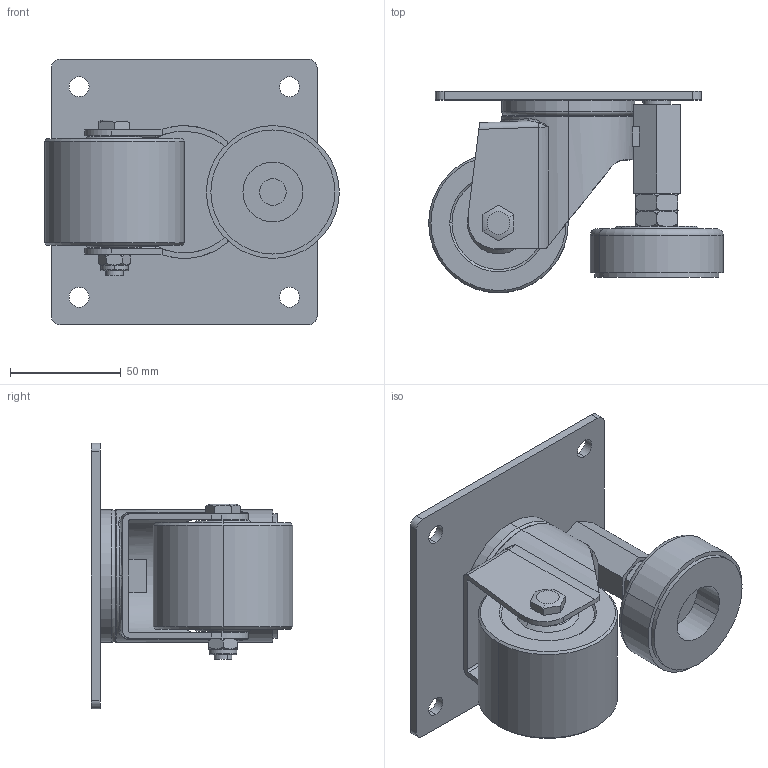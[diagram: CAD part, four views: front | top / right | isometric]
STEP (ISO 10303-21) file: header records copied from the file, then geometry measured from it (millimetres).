
FILE_DESCRIPTION (( 'STEP AP203' ), '1' );
FILE_NAME ('25AMPS.STEP', '2018-01-09T07:24:27', ( '' ), ( '' ), 'SwSTEP 2.0', 'SolidWorks 2014', '' );
FILE_SCHEMA (( 'CONFIG_CONTROL_DESIGN' ));
Length unit declared in the file: millimetre
Products named in the file (10): 活動架調整-25; 底盤調整-9595T4; BS604050; 螺絲M8X70; 25AMPS; 輪調整-25; 底座BS60; 螺帽12WT; 螺桿12WTXL50; 螺帽M8
Assembly tree (9 placements, depth 3):
  25AMPS
    底盤調整-9595T4
    輪調整-25
    螺帽M8
    螺絲M8X70
    活動架調整-25
    BS604050
      底座BS60
      螺桿12WTXL50
    螺帽12WT
Bounding box: 133 x 91 x 120 mm (x, y, z)
Volume: 325025.9 mm3; surface area: 94944.5 mm2
Topology: 8 solids, 8 shells, 256 faces, 639 edges, 413 vertices
Faces by surface type: cylinder 105, plane 94, torus 31, cone 14, bspline 12
Entity records: 12669 total; most frequent: CARTESIAN_POINT 5757, ORIENTED_EDGE 1274, DIRECTION 1193, EDGE_CURVE 637, AXIS2_PLACEMENT_3D 475, VERTEX_POINT 413, EDGE_LOOP 296, ADVANCED_FACE 256
